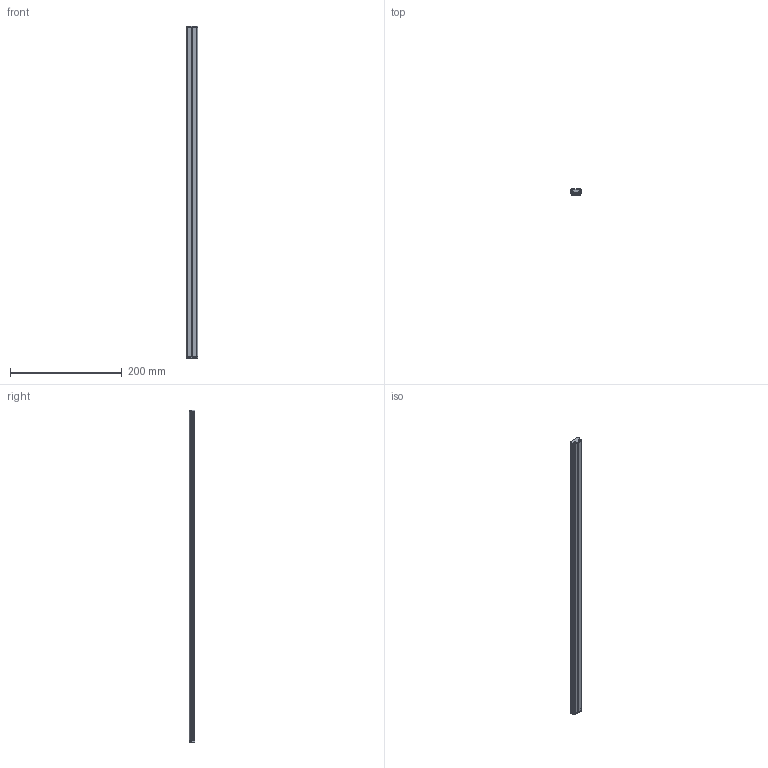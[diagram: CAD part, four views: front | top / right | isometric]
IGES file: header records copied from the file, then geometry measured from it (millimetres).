
Start section: SolidWorks IGES file using analytic representation for surfaces
Global section: file name: C:\Users\JoãoSantos\Desktop\02_3D.2D\01_2020\02_Linear\13_Limit\02_Limit_Flat\Componentes\Limit\LIMIT_FLAT_595.IGS; native system: SolidWorks 2020; preprocessor: SolidWorks 2020; author: JoãoSantos; date: 201023.152645; units: millimetre
Bounding box: 20.25 x 10.45 x 595.1 mm (x, y, z)
Surface area: 83192.9 mm2 (no closed solid volume)
Topology: 0 solids, 0 shells, 274 faces, 2328 edges, 2320 vertices
Faces by surface type: bspline 146, revolution 128
